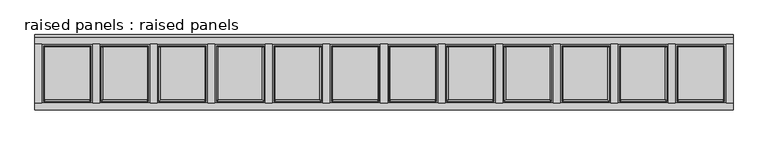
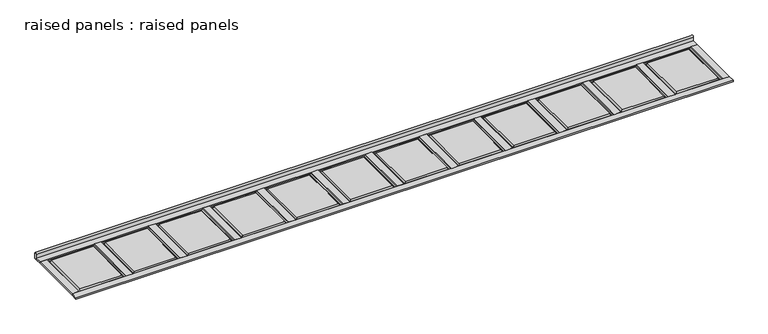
"""IFC4 building model written with IfcOpenShell, lengths in millimetres: furniture geometry, raised panels : raised panels."""

from ifc_helpers import new_model, si_unit, point, frame, frame_2d, origin, origin_with_axes, place, context, project, spatial, polyline, circle_curve, ellipse_curve, trimmed, segment, composite_curve, outline, extrude, source, transform, mapped, element, save
from ifc_brep_helpers import plane_surface, revolved_surface, advanced_brep


def raised_panels_raised_panels_35f73cc0(model_context):
    return source(origin(), model_context, "Body", "SolidModel", [
        advanced_brep(
        [(7410.45, 209.55, 19.05), (7410.45, 781.05, 19.05), (6929.9666667, 781.05, 19.05), (6929.9666667, 209.55, 19.05), (7442.2, 812.8, 0.0), (7442.2, 177.8, 0.0), (6898.2166667, 177.8, 0.0), (6898.2166667, 812.8, 0.0), (6898.2166667, 812.8, 6.35), (7442.2, 812.8, 6.35), (6898.2166667, 177.8, 6.35), (7442.2, 177.8, 6.35), (7423.15, 196.85, 6.35), (7423.15, 793.75, 6.35), (6917.2666667, 793.75, 6.35), (6917.2666667, 196.85, 6.35)],
        [
            (0, 1),
            (1, 2),
            (2, 3),
            (3, 0),
            (4, 5),
            (5, 6),
            (6, 7),
            (7, 4),
            (7, 8),
            (8, 9),
            (9, 4),
            (6, 10),
            (10, 8),
            (5, 11),
            (11, 10),
            (9, 11),
            (12, 13),
            (13, 1, ellipse_curve(frame((7423.15, 793.75, 19.05), z_axis=(-0.7071067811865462, 0.7071067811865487, 0.0), x_axis=(-0.7071067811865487, -0.7071067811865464, 0.0)), 17.9605122, 12.7)),
            (0, 12, ellipse_curve(frame((7423.15, 196.85, 19.05), z_axis=(-0.7071067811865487, -0.7071067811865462, 0.0), x_axis=(0.7071067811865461, -0.7071067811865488, 0.0)), 17.9605122, 12.7)),
            (13, 14),
            (14, 2, ellipse_curve(frame((6917.2666667, 793.75, 19.05), z_axis=(-0.7071067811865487, -0.7071067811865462, 0.0), x_axis=(0.7071067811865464, -0.7071067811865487, 0.0)), 17.9605122, 12.7)),
            (14, 15),
            (15, 3, ellipse_curve(frame((6917.2666667, 196.85, 19.05), z_axis=(0.7071067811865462, -0.7071067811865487, 0.0), x_axis=(0.7071067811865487, 0.7071067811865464, 0.0)), 17.9605122, 12.7)),
            (15, 12),
        ],
        [
            plane_surface(frame((7442.2, 812.8, 19.05), z_axis=(0.0, 0.0, 1.0), x_axis=(-1.0, 0.0, 0.0))),
            plane_surface(frame((7442.2, 812.8, 0.0), z_axis=(0.0, 0.0, -1.0), x_axis=(1.0, 0.0, 0.0))),
            plane_surface(frame((7442.2, 812.8, 19.05), z_axis=(0.0, 1.0, 0.0), x_axis=(0.0, 0.0, -1.0))),
            plane_surface(frame((6898.2166667, 812.8, 19.05), z_axis=(-1.0, 0.0, 0.0), x_axis=(0.0, 0.0, -1.0))),
            plane_surface(frame((6898.2166667, 177.8, 19.05), z_axis=(0.0, -1.0, 0.0), x_axis=(0.0, 0.0, -1.0))),
            plane_surface(frame((7442.2, 177.8, 19.05), z_axis=(1.0, 0.0, 0.0), x_axis=(0.0, 0.0, -1.0))),
            revolved_surface(polyline([(7410.45, 184.15000002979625, 19.05), (7410.45, 806.4499999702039, 19.05)]), (7423.15, 177.8, 19.05), (0.0, -1.0, 0.0)),
            revolved_surface(polyline([(7435.8499999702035, 781.05, 19.05), (6904.566666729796, 781.05, 19.05)]), (7442.2, 793.75, 19.05), (1.0, 0.0, 0.0)),
            revolved_surface(polyline([(6929.9666667, 806.4499999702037, 19.05), (6929.9666667, 184.15000002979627, 19.05)]), (6917.2666667, 812.8, 19.05), (0.0, 1.0, 0.0)),
            revolved_surface(polyline([(6904.566666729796, 209.54999999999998, 19.05), (7435.8499999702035, 209.54999999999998, 19.05)]), (6898.2166667, 196.85, 19.05), (-1.0, 0.0, 0.0)),
            plane_surface(frame((6917.2666667, 196.85, 6.35), z_axis=(0.0, 0.0, 1.0), x_axis=(1.0, 0.0, 0.0))),
        ],
        [
            (0, [[1, 2, 3, 4]]),
            (1, [[5, 6, 7, 8]]),
            (2, [[-8, 9, 10, 11]]),
            (3, [[-7, 12, 13, -9]]),
            (4, [[-6, 14, 15, -12]]),
            (5, [[-5, -11, 16, -14]]),
            (6, [[17, 18, -1, 19]]),
            (7, [[-18, 20, 21, -2]]),
            (8, [[-21, 22, 23, -3]]),
            (9, [[-19, -4, -23, 24]]),
            (10, [[-10, -13, -15, -16], [-17, -24, -22, -20]]),
        ],
    ),
        advanced_brep(
        [(6790.2666667, 209.55, 19.05), (6790.2666667, 781.05, 19.05), (6309.7833333, 781.05, 19.05), (6309.7833333, 209.55, 19.05), (6822.0166667, 812.8, 0.0), (6822.0166667, 177.8, 0.0), (6278.0333333, 177.8, 0.0), (6278.0333333, 812.8, 0.0), (6278.0333333, 812.8, 6.35), (6822.0166667, 812.8, 6.35), (6278.0333333, 177.8, 6.35), (6822.0166667, 177.8, 6.35), (6802.9666667, 196.85, 6.35), (6802.9666667, 793.75, 6.35), (6297.0833333, 793.75, 6.35), (6297.0833333, 196.85, 6.35)],
        [
            (0, 1),
            (1, 2),
            (2, 3),
            (3, 0),
            (4, 5),
            (5, 6),
            (6, 7),
            (7, 4),
            (7, 8),
            (8, 9),
            (9, 4),
            (6, 10),
            (10, 8),
            (5, 11),
            (11, 10),
            (9, 11),
            (12, 13),
            (13, 1, ellipse_curve(frame((6802.9666667, 793.75, 19.05), z_axis=(-0.7071067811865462, 0.7071067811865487, 0.0), x_axis=(-0.7071067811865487, -0.7071067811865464, 0.0)), 17.9605122, 12.7)),
            (0, 12, ellipse_curve(frame((6802.9666667, 196.85, 19.05), z_axis=(-0.7071067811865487, -0.7071067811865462, 0.0), x_axis=(0.7071067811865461, -0.7071067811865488, 0.0)), 17.9605122, 12.7)),
            (13, 14),
            (14, 2, ellipse_curve(frame((6297.0833333, 793.75, 19.05), z_axis=(-0.7071067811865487, -0.7071067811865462, 0.0), x_axis=(0.7071067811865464, -0.7071067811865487, 0.0)), 17.9605122, 12.7)),
            (14, 15),
            (15, 3, ellipse_curve(frame((6297.0833333, 196.85, 19.05), z_axis=(0.7071067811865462, -0.7071067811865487, 0.0), x_axis=(0.7071067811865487, 0.7071067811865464, 0.0)), 17.9605122, 12.7)),
            (15, 12),
        ],
        [
            plane_surface(frame((6822.0166667, 812.8, 19.05), z_axis=(0.0, 0.0, 1.0), x_axis=(-1.0, 0.0, 0.0))),
            plane_surface(frame((6822.0166667, 812.8, 0.0), z_axis=(0.0, 0.0, -1.0), x_axis=(1.0, 0.0, 0.0))),
            plane_surface(frame((6822.0166667, 812.8, 19.05), z_axis=(0.0, 1.0, 0.0), x_axis=(0.0, 0.0, -1.0))),
            plane_surface(frame((6278.0333333, 812.8, 19.05), z_axis=(-1.0, 0.0, 0.0), x_axis=(0.0, 0.0, -1.0))),
            plane_surface(frame((6278.0333333, 177.8, 19.05), z_axis=(0.0, -1.0, 0.0), x_axis=(0.0, 0.0, -1.0))),
            plane_surface(frame((6822.0166667, 177.8, 19.05), z_axis=(1.0, 0.0, 0.0), x_axis=(0.0, 0.0, -1.0))),
            revolved_surface(polyline([(6790.2666667, 184.15000002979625, 19.05), (6790.2666667, 806.4499999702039, 19.05)]), (6802.9666667, 177.8, 19.05), (0.0, -1.0, 0.0)),
            revolved_surface(polyline([(6815.666666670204, 781.05, 19.05), (6284.383333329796, 781.05, 19.05)]), (6822.0166667, 793.75, 19.05), (1.0, 0.0, 0.0)),
            revolved_surface(polyline([(6309.7833333, 806.4499999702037, 19.05), (6309.7833333, 184.15000002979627, 19.05)]), (6297.0833333, 812.8, 19.05), (0.0, 1.0, 0.0)),
            revolved_surface(polyline([(6284.383333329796, 209.54999999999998, 19.05), (6815.666666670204, 209.54999999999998, 19.05)]), (6278.0333333, 196.85, 19.05), (-1.0, 0.0, 0.0)),
            plane_surface(frame((6297.0833333, 196.85, 6.35), z_axis=(0.0, 0.0, 1.0), x_axis=(1.0, 0.0, 0.0))),
        ],
        [
            (0, [[1, 2, 3, 4]]),
            (1, [[5, 6, 7, 8]]),
            (2, [[-8, 9, 10, 11]]),
            (3, [[-7, 12, 13, -9]]),
            (4, [[-6, 14, 15, -12]]),
            (5, [[-5, -11, 16, -14]]),
            (6, [[17, 18, -1, 19]]),
            (7, [[-18, 20, 21, -2]]),
            (8, [[-21, 22, 23, -3]]),
            (9, [[-19, -4, -23, 24]]),
            (10, [[-10, -13, -15, -16], [-17, -24, -22, -20]]),
        ],
    ),
        advanced_brep(
        [(6170.0833333, 209.55, 19.05), (6170.0833333, 781.05, 19.05), (5689.6, 781.05, 19.05), (5689.6, 209.55, 19.05), (6201.8333333, 812.8, 0.0), (6201.8333333, 177.8, 0.0), (5657.85, 177.8, 0.0), (5657.85, 812.8, 0.0), (5657.85, 812.8, 6.35), (6201.8333333, 812.8, 6.35), (5657.85, 177.8, 6.35), (6201.8333333, 177.8, 6.35), (6182.7833333, 196.85, 6.35), (6182.7833333, 793.75, 6.35), (5676.9, 793.75, 6.35), (5676.9, 196.85, 6.35)],
        [
            (0, 1),
            (1, 2),
            (2, 3),
            (3, 0),
            (4, 5),
            (5, 6),
            (6, 7),
            (7, 4),
            (7, 8),
            (8, 9),
            (9, 4),
            (6, 10),
            (10, 8),
            (5, 11),
            (11, 10),
            (9, 11),
            (12, 13),
            (13, 1, ellipse_curve(frame((6182.7833333, 793.75, 19.05), z_axis=(-0.7071067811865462, 0.7071067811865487, 0.0), x_axis=(-0.7071067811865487, -0.7071067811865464, 0.0)), 17.9605122, 12.7)),
            (0, 12, ellipse_curve(frame((6182.7833333, 196.85, 19.05), z_axis=(-0.7071067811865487, -0.7071067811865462, 0.0), x_axis=(0.7071067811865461, -0.7071067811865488, 0.0)), 17.9605122, 12.7)),
            (13, 14),
            (14, 2, ellipse_curve(frame((5676.9, 793.75, 19.05), z_axis=(-0.7071067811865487, -0.7071067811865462, 0.0), x_axis=(0.7071067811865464, -0.7071067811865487, 0.0)), 17.9605122, 12.7)),
            (14, 15),
            (15, 3, ellipse_curve(frame((5676.9, 196.85, 19.05), z_axis=(0.7071067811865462, -0.7071067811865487, 0.0), x_axis=(0.7071067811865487, 0.7071067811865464, 0.0)), 17.9605122, 12.7)),
            (15, 12),
        ],
        [
            plane_surface(frame((6201.8333333, 812.8, 19.05), z_axis=(0.0, 0.0, 1.0), x_axis=(-1.0, 0.0, 0.0))),
            plane_surface(frame((6201.8333333, 812.8, 0.0), z_axis=(0.0, 0.0, -1.0), x_axis=(1.0, 0.0, 0.0))),
            plane_surface(frame((6201.8333333, 812.8, 19.05), z_axis=(0.0, 1.0, 0.0), x_axis=(0.0, 0.0, -1.0))),
            plane_surface(frame((5657.85, 812.8, 19.05), z_axis=(-1.0, 0.0, 0.0), x_axis=(0.0, 0.0, -1.0))),
            plane_surface(frame((5657.85, 177.8, 19.05), z_axis=(0.0, -1.0, 0.0), x_axis=(0.0, 0.0, -1.0))),
            plane_surface(frame((6201.8333333, 177.8, 19.05), z_axis=(1.0, 0.0, 0.0), x_axis=(0.0, 0.0, -1.0))),
            revolved_surface(polyline([(6170.0833333, 184.15000002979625, 19.05), (6170.0833333, 806.4499999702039, 19.05)]), (6182.7833333, 177.8, 19.05), (0.0, -1.0, 0.0)),
            revolved_surface(polyline([(6195.483333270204, 781.05, 19.05), (5664.200000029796, 781.05, 19.05)]), (6201.8333333, 793.75, 19.05), (1.0, 0.0, 0.0)),
            revolved_surface(polyline([(5689.599999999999, 806.4499999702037, 19.05), (5689.599999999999, 184.15000002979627, 19.05)]), (5676.9, 812.8, 19.05), (0.0, 1.0, 0.0)),
            revolved_surface(polyline([(5664.200000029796, 209.54999999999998, 19.05), (6195.483333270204, 209.54999999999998, 19.05)]), (5657.85, 196.85, 19.05), (-1.0, 0.0, 0.0)),
            plane_surface(frame((5676.9, 196.85, 6.35), z_axis=(0.0, 0.0, 1.0), x_axis=(1.0, 0.0, 0.0))),
        ],
        [
            (0, [[1, 2, 3, 4]]),
            (1, [[5, 6, 7, 8]]),
            (2, [[-8, 9, 10, 11]]),
            (3, [[-7, 12, 13, -9]]),
            (4, [[-6, 14, 15, -12]]),
            (5, [[-5, -11, 16, -14]]),
            (6, [[17, 18, -1, 19]]),
            (7, [[-18, 20, 21, -2]]),
            (8, [[-21, 22, 23, -3]]),
            (9, [[-19, -4, -23, 24]]),
            (10, [[-10, -13, -15, -16], [-17, -24, -22, -20]]),
        ],
    ),
        advanced_brep(
        [(5549.9, 209.55, 19.05), (5549.9, 781.05, 19.05), (5069.4166667, 781.05, 19.05), (5069.4166667, 209.55, 19.05), (5581.65, 812.8, 0.0), (5581.65, 177.8, 0.0), (5037.6666667, 177.8, 0.0), (5037.6666667, 812.8, 0.0), (5037.6666667, 812.8, 6.35), (5581.65, 812.8, 6.35), (5037.6666667, 177.8, 6.35), (5581.65, 177.8, 6.35), (5562.6, 196.85, 6.35), (5562.6, 793.75, 6.35), (5056.7166667, 793.75, 6.35), (5056.7166667, 196.85, 6.35)],
        [
            (0, 1),
            (1, 2),
            (2, 3),
            (3, 0),
            (4, 5),
            (5, 6),
            (6, 7),
            (7, 4),
            (7, 8),
            (8, 9),
            (9, 4),
            (6, 10),
            (10, 8),
            (5, 11),
            (11, 10),
            (9, 11),
            (12, 13),
            (13, 1, ellipse_curve(frame((5562.6, 793.75, 19.05), z_axis=(-0.7071067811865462, 0.7071067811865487, 0.0), x_axis=(-0.7071067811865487, -0.7071067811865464, 0.0)), 17.9605122, 12.7)),
            (0, 12, ellipse_curve(frame((5562.6, 196.85, 19.05), z_axis=(-0.7071067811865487, -0.7071067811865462, 0.0), x_axis=(0.7071067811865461, -0.7071067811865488, 0.0)), 17.9605122, 12.7)),
            (13, 14),
            (14, 2, ellipse_curve(frame((5056.7166667, 793.75, 19.05), z_axis=(-0.7071067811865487, -0.7071067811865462, 0.0), x_axis=(0.7071067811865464, -0.7071067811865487, 0.0)), 17.9605122, 12.7)),
            (14, 15),
            (15, 3, ellipse_curve(frame((5056.7166667, 196.85, 19.05), z_axis=(0.7071067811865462, -0.7071067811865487, 0.0), x_axis=(0.7071067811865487, 0.7071067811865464, 0.0)), 17.9605122, 12.7)),
            (15, 12),
        ],
        [
            plane_surface(frame((5581.65, 812.8, 19.05), z_axis=(0.0, 0.0, 1.0), x_axis=(-1.0, 0.0, 0.0))),
            plane_surface(frame((5581.65, 812.8, 0.0), z_axis=(0.0, 0.0, -1.0), x_axis=(1.0, 0.0, 0.0))),
            plane_surface(frame((5581.65, 812.8, 19.05), z_axis=(0.0, 1.0, 0.0), x_axis=(0.0, 0.0, -1.0))),
            plane_surface(frame((5037.6666667, 812.8, 19.05), z_axis=(-1.0, 0.0, 0.0), x_axis=(0.0, 0.0, -1.0))),
            plane_surface(frame((5037.6666667, 177.8, 19.05), z_axis=(0.0, -1.0, 0.0), x_axis=(0.0, 0.0, -1.0))),
            plane_surface(frame((5581.65, 177.8, 19.05), z_axis=(1.0, 0.0, 0.0), x_axis=(0.0, 0.0, -1.0))),
            revolved_surface(polyline([(5549.900000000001, 184.15000002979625, 19.05), (5549.900000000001, 806.4499999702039, 19.05)]), (5562.6, 177.8, 19.05), (0.0, -1.0, 0.0)),
            revolved_surface(polyline([(5575.299999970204, 781.05, 19.05), (5044.016666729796, 781.05, 19.05)]), (5581.65, 793.75, 19.05), (1.0, 0.0, 0.0)),
            revolved_surface(polyline([(5069.4166667, 806.4499999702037, 19.05), (5069.4166667, 184.15000002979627, 19.05)]), (5056.7166667, 812.8, 19.05), (0.0, 1.0, 0.0)),
            revolved_surface(polyline([(5044.016666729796, 209.54999999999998, 19.05), (5575.299999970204, 209.54999999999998, 19.05)]), (5037.6666667, 196.85, 19.05), (-1.0, 0.0, 0.0)),
            plane_surface(frame((5056.7166667, 196.85, 6.35), z_axis=(0.0, 0.0, 1.0), x_axis=(1.0, 0.0, 0.0))),
        ],
        [
            (0, [[1, 2, 3, 4]]),
            (1, [[5, 6, 7, 8]]),
            (2, [[-8, 9, 10, 11]]),
            (3, [[-7, 12, 13, -9]]),
            (4, [[-6, 14, 15, -12]]),
            (5, [[-5, -11, 16, -14]]),
            (6, [[17, 18, -1, 19]]),
            (7, [[-18, 20, 21, -2]]),
            (8, [[-21, 22, 23, -3]]),
            (9, [[-19, -4, -23, 24]]),
            (10, [[-10, -13, -15, -16], [-17, -24, -22, -20]]),
        ],
    ),
        advanced_brep(
        [(4929.7166667, 209.55, 19.05), (4929.7166667, 781.05, 19.05), (4449.2333333, 781.05, 19.05), (4449.2333333, 209.55, 19.05), (4961.4666667, 812.8, 0.0), (4961.4666667, 177.8, 0.0), (4417.4833333, 177.8, 0.0), (4417.4833333, 812.8, 0.0), (4417.4833333, 812.8, 6.35), (4961.4666667, 812.8, 6.35), (4417.4833333, 177.8, 6.35), (4961.4666667, 177.8, 6.35), (4942.4166667, 196.85, 6.35), (4942.4166667, 793.75, 6.35), (4436.5333333, 793.75, 6.35), (4436.5333333, 196.85, 6.35)],
        [
            (0, 1),
            (1, 2),
            (2, 3),
            (3, 0),
            (4, 5),
            (5, 6),
            (6, 7),
            (7, 4),
            (7, 8),
            (8, 9),
            (9, 4),
            (6, 10),
            (10, 8),
            (5, 11),
            (11, 10),
            (9, 11),
            (12, 13),
            (13, 1, ellipse_curve(frame((4942.4166667, 793.75, 19.05), z_axis=(-0.7071067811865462, 0.7071067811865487, 0.0), x_axis=(-0.7071067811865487, -0.7071067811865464, 0.0)), 17.9605122, 12.7)),
            (0, 12, ellipse_curve(frame((4942.4166667, 196.85, 19.05), z_axis=(-0.7071067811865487, -0.7071067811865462, 0.0), x_axis=(0.7071067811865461, -0.7071067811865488, 0.0)), 17.9605122, 12.7)),
            (13, 14),
            (14, 2, ellipse_curve(frame((4436.5333333, 793.75, 19.05), z_axis=(-0.7071067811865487, -0.7071067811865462, 0.0), x_axis=(0.7071067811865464, -0.7071067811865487, 0.0)), 17.9605122, 12.7)),
            (14, 15),
            (15, 3, ellipse_curve(frame((4436.5333333, 196.85, 19.05), z_axis=(0.7071067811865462, -0.7071067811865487, 0.0), x_axis=(0.7071067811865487, 0.7071067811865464, 0.0)), 17.9605122, 12.7)),
            (15, 12),
        ],
        [
            plane_surface(frame((4961.4666667, 812.8, 19.05), z_axis=(0.0, 0.0, 1.0), x_axis=(-1.0, 0.0, 0.0))),
            plane_surface(frame((4961.4666667, 812.8, 0.0), z_axis=(0.0, 0.0, -1.0), x_axis=(1.0, 0.0, 0.0))),
            plane_surface(frame((4961.4666667, 812.8, 19.05), z_axis=(0.0, 1.0, 0.0), x_axis=(0.0, 0.0, -1.0))),
            plane_surface(frame((4417.4833333, 812.8, 19.05), z_axis=(-1.0, 0.0, 0.0), x_axis=(0.0, 0.0, -1.0))),
            plane_surface(frame((4417.4833333, 177.8, 19.05), z_axis=(0.0, -1.0, 0.0), x_axis=(0.0, 0.0, -1.0))),
            plane_surface(frame((4961.4666667, 177.8, 19.05), z_axis=(1.0, 0.0, 0.0), x_axis=(0.0, 0.0, -1.0))),
            revolved_surface(polyline([(4929.7166667, 184.15000002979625, 19.05), (4929.7166667, 806.4499999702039, 19.05)]), (4942.4166667, 177.8, 19.05), (0.0, -1.0, 0.0)),
            revolved_surface(polyline([(4955.116666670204, 781.05, 19.05), (4423.833333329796, 781.05, 19.05)]), (4961.4666667, 793.75, 19.05), (1.0, 0.0, 0.0)),
            revolved_surface(polyline([(4449.2333333, 806.4499999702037, 19.05), (4449.2333333, 184.15000002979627, 19.05)]), (4436.5333333, 812.8, 19.05), (0.0, 1.0, 0.0)),
            revolved_surface(polyline([(4423.833333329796, 209.54999999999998, 19.05), (4955.116666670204, 209.54999999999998, 19.05)]), (4417.4833333, 196.85, 19.05), (-1.0, 0.0, 0.0)),
            plane_surface(frame((4436.5333333, 196.85, 6.35), z_axis=(0.0, 0.0, 1.0), x_axis=(1.0, 0.0, 0.0))),
        ],
        [
            (0, [[1, 2, 3, 4]]),
            (1, [[5, 6, 7, 8]]),
            (2, [[-8, 9, 10, 11]]),
            (3, [[-7, 12, 13, -9]]),
            (4, [[-6, 14, 15, -12]]),
            (5, [[-5, -11, 16, -14]]),
            (6, [[17, 18, -1, 19]]),
            (7, [[-18, 20, 21, -2]]),
            (8, [[-21, 22, 23, -3]]),
            (9, [[-19, -4, -23, 24]]),
            (10, [[-10, -13, -15, -16], [-17, -24, -22, -20]]),
        ],
    ),
        extrude(outline(polyline([(6898.2166667, 177.8), (6822.0166667, 177.8), (6822.0166667, 812.8), (6898.2166667, 812.8), (6898.2166667, 177.8)])), origin_with_axes(), (0.0, 0.0, 1.0), 19.05),
        extrude(outline(polyline([(6278.0333333, 177.8), (6201.8333333, 177.8), (6201.8333333, 812.8), (6278.0333333, 812.8), (6278.0333333, 177.8)])), origin_with_axes(), (0.0, 0.0, 1.0), 19.05),
        extrude(outline(polyline([(5657.85, 177.8), (5581.65, 177.8), (5581.65, 812.8), (5657.85, 812.8), (5657.85, 177.8)])), origin_with_axes(), (0.0, 0.0, 1.0), 19.05),
        extrude(outline(polyline([(5037.6666667, 177.8), (4961.4666667, 177.8), (4961.4666667, 812.8), (5037.6666667, 812.8), (5037.6666667, 177.8)])), origin_with_axes(), (0.0, 0.0, 1.0), 19.05),
        extrude(outline(polyline([(4417.4833333, 177.8), (4341.2833333, 177.8), (4341.2833333, 812.8), (4417.4833333, 812.8), (4417.4833333, 177.8)])), origin_with_axes(), (0.0, 0.0, 1.0), 19.05),
        advanced_brep(
        [(4309.5333333, 209.55, 19.05), (4309.5333333, 781.05, 19.05), (3829.05, 781.05, 19.05), (3829.05, 209.55, 19.05), (4341.2833333, 812.8, 0.0), (4341.2833333, 177.8, 0.0), (3797.3, 177.8, 0.0), (3797.3, 812.8, 0.0), (3797.3, 812.8, 6.35), (4341.2833333, 812.8, 6.35), (3797.3, 177.8, 6.35), (4341.2833333, 177.8, 6.35), (4322.2333333, 196.85, 6.35), (4322.2333333, 793.75, 6.35), (3816.35, 793.75, 6.35), (3816.35, 196.85, 6.35)],
        [
            (0, 1),
            (1, 2),
            (2, 3),
            (3, 0),
            (4, 5),
            (5, 6),
            (6, 7),
            (7, 4),
            (7, 8),
            (8, 9),
            (9, 4),
            (6, 10),
            (10, 8),
            (5, 11),
            (11, 10),
            (9, 11),
            (12, 13),
            (13, 1, ellipse_curve(frame((4322.2333333, 793.75, 19.05), z_axis=(-0.7071067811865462, 0.7071067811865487, 0.0), x_axis=(-0.7071067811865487, -0.7071067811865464, 0.0)), 17.9605122, 12.7)),
            (0, 12, ellipse_curve(frame((4322.2333333, 196.85, 19.05), z_axis=(-0.7071067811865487, -0.7071067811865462, 0.0), x_axis=(0.7071067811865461, -0.7071067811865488, 0.0)), 17.9605122, 12.7)),
            (13, 14),
            (14, 2, ellipse_curve(frame((3816.35, 793.75, 19.05), z_axis=(-0.7071067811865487, -0.7071067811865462, 0.0), x_axis=(0.7071067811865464, -0.7071067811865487, 0.0)), 17.9605122, 12.7)),
            (14, 15),
            (15, 3, ellipse_curve(frame((3816.35, 196.85, 19.05), z_axis=(0.7071067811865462, -0.7071067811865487, 0.0), x_axis=(0.7071067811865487, 0.7071067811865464, 0.0)), 17.9605122, 12.7)),
            (15, 12),
        ],
        [
            plane_surface(frame((4341.2833333, 812.8, 19.05), z_axis=(0.0, 0.0, 1.0), x_axis=(-1.0, 0.0, 0.0))),
            plane_surface(frame((4341.2833333, 812.8, 0.0), z_axis=(0.0, 0.0, -1.0), x_axis=(1.0, 0.0, 0.0))),
            plane_surface(frame((4341.2833333, 812.8, 19.05), z_axis=(0.0, 1.0, 0.0), x_axis=(0.0, 0.0, -1.0))),
            plane_surface(frame((3797.3, 812.8, 19.05), z_axis=(-1.0, 0.0, 0.0), x_axis=(0.0, 0.0, -1.0))),
            plane_surface(frame((3797.3, 177.8, 19.05), z_axis=(0.0, -1.0, 0.0), x_axis=(0.0, 0.0, -1.0))),
            plane_surface(frame((4341.2833333, 177.8, 19.05), z_axis=(1.0, 0.0, 0.0), x_axis=(0.0, 0.0, -1.0))),
            revolved_surface(polyline([(4309.5333333, 184.15000002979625, 19.05), (4309.5333333, 806.4499999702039, 19.05)]), (4322.2333333, 177.8, 19.05), (0.0, -1.0, 0.0)),
            revolved_surface(polyline([(4334.933333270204, 781.05, 19.05), (3803.650000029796, 781.05, 19.05)]), (4341.2833333, 793.75, 19.05), (1.0, 0.0, 0.0)),
            revolved_surface(polyline([(3829.0499999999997, 806.4499999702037, 19.05), (3829.0499999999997, 184.15000002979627, 19.05)]), (3816.35, 812.8, 19.05), (0.0, 1.0, 0.0)),
            revolved_surface(polyline([(3803.650000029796, 209.54999999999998, 19.05), (4334.933333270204, 209.54999999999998, 19.05)]), (3797.3, 196.85, 19.05), (-1.0, 0.0, 0.0)),
            plane_surface(frame((3816.35, 196.85, 6.35), z_axis=(0.0, 0.0, 1.0), x_axis=(1.0, 0.0, 0.0))),
        ],
        [
            (0, [[1, 2, 3, 4]]),
            (1, [[5, 6, 7, 8]]),
            (2, [[-8, 9, 10, 11]]),
            (3, [[-7, 12, 13, -9]]),
            (4, [[-6, 14, 15, -12]]),
            (5, [[-5, -11, 16, -14]]),
            (6, [[17, 18, -1, 19]]),
            (7, [[-18, 20, 21, -2]]),
            (8, [[-21, 22, 23, -3]]),
            (9, [[-19, -4, -23, 24]]),
            (10, [[-10, -13, -15, -16], [-17, -24, -22, -20]]),
        ],
    ),
        advanced_brep(
        [(3689.35, 209.55, 19.05), (3689.35, 781.05, 19.05), (3208.8666667, 781.05, 19.05), (3208.8666667, 209.55, 19.05), (3721.1, 812.8, 0.0), (3721.1, 177.8, 0.0), (3177.1166667, 177.8, 0.0), (3177.1166667, 812.8, 0.0), (3177.1166667, 812.8, 6.35), (3721.1, 812.8, 6.35), (3177.1166667, 177.8, 6.35), (3721.1, 177.8, 6.35), (3702.05, 196.85, 6.35), (3702.05, 793.75, 6.35), (3196.1666667, 793.75, 6.35), (3196.1666667, 196.85, 6.35)],
        [
            (0, 1),
            (1, 2),
            (2, 3),
            (3, 0),
            (4, 5),
            (5, 6),
            (6, 7),
            (7, 4),
            (7, 8),
            (8, 9),
            (9, 4),
            (6, 10),
            (10, 8),
            (5, 11),
            (11, 10),
            (9, 11),
            (12, 13),
            (13, 1, ellipse_curve(frame((3702.05, 793.75, 19.05), z_axis=(-0.7071067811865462, 0.7071067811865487, 0.0), x_axis=(-0.7071067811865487, -0.7071067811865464, 0.0)), 17.9605122, 12.7)),
            (0, 12, ellipse_curve(frame((3702.05, 196.85, 19.05), z_axis=(-0.7071067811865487, -0.7071067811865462, 0.0), x_axis=(0.7071067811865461, -0.7071067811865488, 0.0)), 17.9605122, 12.7)),
            (13, 14),
            (14, 2, ellipse_curve(frame((3196.1666667, 793.75, 19.05), z_axis=(-0.7071067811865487, -0.7071067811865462, 0.0), x_axis=(0.7071067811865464, -0.7071067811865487, 0.0)), 17.9605122, 12.7)),
            (14, 15),
            (15, 3, ellipse_curve(frame((3196.1666667, 196.85, 19.05), z_axis=(0.7071067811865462, -0.7071067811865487, 0.0), x_axis=(0.7071067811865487, 0.7071067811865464, 0.0)), 17.9605122, 12.7)),
            (15, 12),
        ],
        [
            plane_surface(frame((3721.1, 812.8, 19.05), z_axis=(0.0, 0.0, 1.0), x_axis=(-1.0, 0.0, 0.0))),
            plane_surface(frame((3721.1, 812.8, 0.0), z_axis=(0.0, 0.0, -1.0), x_axis=(1.0, 0.0, 0.0))),
            plane_surface(frame((3721.1, 812.8, 19.05), z_axis=(0.0, 1.0, 0.0), x_axis=(0.0, 0.0, -1.0))),
            plane_surface(frame((3177.1166667, 812.8, 19.05), z_axis=(-1.0, 0.0, 0.0), x_axis=(0.0, 0.0, -1.0))),
            plane_surface(frame((3177.1166667, 177.8, 19.05), z_axis=(0.0, -1.0, 0.0), x_axis=(0.0, 0.0, -1.0))),
            plane_surface(frame((3721.1, 177.8, 19.05), z_axis=(1.0, 0.0, 0.0), x_axis=(0.0, 0.0, -1.0))),
            revolved_surface(polyline([(3689.3500000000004, 184.15000002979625, 19.05), (3689.3500000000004, 806.4499999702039, 19.05)]), (3702.05, 177.8, 19.05), (0.0, -1.0, 0.0)),
            revolved_surface(polyline([(3714.749999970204, 781.05, 19.05), (3183.466666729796, 781.05, 19.05)]), (3721.1, 793.75, 19.05), (1.0, 0.0, 0.0)),
            revolved_surface(polyline([(3208.8666666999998, 806.4499999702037, 19.05), (3208.8666666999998, 184.15000002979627, 19.05)]), (3196.1666667, 812.8, 19.05), (0.0, 1.0, 0.0)),
            revolved_surface(polyline([(3183.466666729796, 209.54999999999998, 19.05), (3714.749999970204, 209.54999999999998, 19.05)]), (3177.1166667, 196.85, 19.05), (-1.0, 0.0, 0.0)),
            plane_surface(frame((3196.1666667, 196.85, 6.35), z_axis=(0.0, 0.0, 1.0), x_axis=(1.0, 0.0, 0.0))),
        ],
        [
            (0, [[1, 2, 3, 4]]),
            (1, [[5, 6, 7, 8]]),
            (2, [[-8, 9, 10, 11]]),
            (3, [[-7, 12, 13, -9]]),
            (4, [[-6, 14, 15, -12]]),
            (5, [[-5, -11, 16, -14]]),
            (6, [[17, 18, -1, 19]]),
            (7, [[-18, 20, 21, -2]]),
            (8, [[-21, 22, 23, -3]]),
            (9, [[-19, -4, -23, 24]]),
            (10, [[-10, -13, -15, -16], [-17, -24, -22, -20]]),
        ],
    ),
        advanced_brep(
        [(3069.1666667, 209.55, 19.05), (3069.1666667, 781.05, 19.05), (2588.6833333, 781.05, 19.05), (2588.6833333, 209.55, 19.05), (3100.9166667, 812.8, 0.0), (3100.9166667, 177.8, 0.0), (2556.9333333, 177.8, 0.0), (2556.9333333, 812.8, 0.0), (2556.9333333, 812.8, 6.35), (3100.9166667, 812.8, 6.35), (2556.9333333, 177.8, 6.35), (3100.9166667, 177.8, 6.35), (3081.8666667, 196.85, 6.35), (3081.8666667, 793.75, 6.35), (2575.9833333, 793.75, 6.35), (2575.9833333, 196.85, 6.35)],
        [
            (0, 1),
            (1, 2),
            (2, 3),
            (3, 0),
            (4, 5),
            (5, 6),
            (6, 7),
            (7, 4),
            (7, 8),
            (8, 9),
            (9, 4),
            (6, 10),
            (10, 8),
            (5, 11),
            (11, 10),
            (9, 11),
            (12, 13),
            (13, 1, ellipse_curve(frame((3081.8666667, 793.75, 19.05), z_axis=(-0.7071067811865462, 0.7071067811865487, 0.0), x_axis=(-0.7071067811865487, -0.7071067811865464, 0.0)), 17.9605122, 12.7)),
            (0, 12, ellipse_curve(frame((3081.8666667, 196.85, 19.05), z_axis=(-0.7071067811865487, -0.7071067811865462, 0.0), x_axis=(0.7071067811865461, -0.7071067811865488, 0.0)), 17.9605122, 12.7)),
            (13, 14),
            (14, 2, ellipse_curve(frame((2575.9833333, 793.75, 19.05), z_axis=(-0.7071067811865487, -0.7071067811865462, 0.0), x_axis=(0.7071067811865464, -0.7071067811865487, 0.0)), 17.9605122, 12.7)),
            (14, 15),
            (15, 3, ellipse_curve(frame((2575.9833333, 196.85, 19.05), z_axis=(0.7071067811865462, -0.7071067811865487, 0.0), x_axis=(0.7071067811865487, 0.7071067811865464, 0.0)), 17.9605122, 12.7)),
            (15, 12),
        ],
        [
            plane_surface(frame((3100.9166667, 812.8, 19.05), z_axis=(0.0, 0.0, 1.0), x_axis=(-1.0, 0.0, 0.0))),
            plane_surface(frame((3100.9166667, 812.8, 0.0), z_axis=(0.0, 0.0, -1.0), x_axis=(1.0, 0.0, 0.0))),
            plane_surface(frame((3100.9166667, 812.8, 19.05), z_axis=(0.0, 1.0, 0.0), x_axis=(0.0, 0.0, -1.0))),
            plane_surface(frame((2556.9333333, 812.8, 19.05), z_axis=(-1.0, 0.0, 0.0), x_axis=(0.0, 0.0, -1.0))),
            plane_surface(frame((2556.9333333, 177.8, 19.05), z_axis=(0.0, -1.0, 0.0), x_axis=(0.0, 0.0, -1.0))),
            plane_surface(frame((3100.9166667, 177.8, 19.05), z_axis=(1.0, 0.0, 0.0), x_axis=(0.0, 0.0, -1.0))),
            revolved_surface(polyline([(3069.1666667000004, 184.15000002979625, 19.05), (3069.1666667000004, 806.4499999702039, 19.05)]), (3081.8666667, 177.8, 19.05), (0.0, -1.0, 0.0)),
            revolved_surface(polyline([(3094.566666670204, 781.05, 19.05), (2563.2833333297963, 781.05, 19.05)]), (3100.9166667, 793.75, 19.05), (1.0, 0.0, 0.0)),
            revolved_surface(polyline([(2588.6833333, 806.4499999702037, 19.05), (2588.6833333, 184.15000002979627, 19.05)]), (2575.9833333, 812.8, 19.05), (0.0, 1.0, 0.0)),
            revolved_surface(polyline([(2563.2833333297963, 209.54999999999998, 19.05), (3094.5666666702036, 209.54999999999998, 19.05)]), (2556.9333333, 196.85, 19.05), (-1.0, 0.0, 0.0)),
            plane_surface(frame((2575.9833333, 196.85, 6.35), z_axis=(0.0, 0.0, 1.0), x_axis=(1.0, 0.0, 0.0))),
        ],
        [
            (0, [[1, 2, 3, 4]]),
            (1, [[5, 6, 7, 8]]),
            (2, [[-8, 9, 10, 11]]),
            (3, [[-7, 12, 13, -9]]),
            (4, [[-6, 14, 15, -12]]),
            (5, [[-5, -11, 16, -14]]),
            (6, [[17, 18, -1, 19]]),
            (7, [[-18, 20, 21, -2]]),
            (8, [[-21, 22, 23, -3]]),
            (9, [[-19, -4, -23, 24]]),
            (10, [[-10, -13, -15, -16], [-17, -24, -22, -20]]),
        ],
    ),
        advanced_brep(
        [(2448.9833333, 209.55, 19.05), (2448.9833333, 781.05, 19.05), (1968.5, 781.05, 19.05), (1968.5, 209.55, 19.05), (2480.7333333, 812.8, 0.0), (2480.7333333, 177.8, 0.0), (1936.75, 177.8, 0.0), (1936.75, 812.8, 0.0), (1936.75, 812.8, 6.35), (2480.7333333, 812.8, 6.35), (1936.75, 177.8, 6.35), (2480.7333333, 177.8, 6.35), (2461.6833333, 196.85, 6.35), (2461.6833333, 793.75, 6.35), (1955.8, 793.75, 6.35), (1955.8, 196.85, 6.35)],
        [
            (0, 1),
            (1, 2),
            (2, 3),
            (3, 0),
            (4, 5),
            (5, 6),
            (6, 7),
            (7, 4),
            (7, 8),
            (8, 9),
            (9, 4),
            (6, 10),
            (10, 8),
            (5, 11),
            (11, 10),
            (9, 11),
            (12, 13),
            (13, 1, ellipse_curve(frame((2461.6833333, 793.75, 19.05), z_axis=(-0.7071067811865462, 0.7071067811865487, 0.0), x_axis=(-0.7071067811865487, -0.7071067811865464, 0.0)), 17.9605122, 12.7)),
            (0, 12, ellipse_curve(frame((2461.6833333, 196.85, 19.05), z_axis=(-0.7071067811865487, -0.7071067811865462, 0.0), x_axis=(0.7071067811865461, -0.7071067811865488, 0.0)), 17.9605122, 12.7)),
            (13, 14),
            (14, 2, ellipse_curve(frame((1955.8, 793.75, 19.05), z_axis=(-0.7071067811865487, -0.7071067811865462, 0.0), x_axis=(0.7071067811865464, -0.7071067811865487, 0.0)), 17.9605122, 12.7)),
            (14, 15),
            (15, 3, ellipse_curve(frame((1955.8, 196.85, 19.05), z_axis=(0.7071067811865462, -0.7071067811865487, 0.0), x_axis=(0.7071067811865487, 0.7071067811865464, 0.0)), 17.9605122, 12.7)),
            (15, 12),
        ],
        [
            plane_surface(frame((2480.7333333, 812.8, 19.05), z_axis=(0.0, 0.0, 1.0), x_axis=(-1.0, 0.0, 0.0))),
            plane_surface(frame((2480.7333333, 812.8, 0.0), z_axis=(0.0, 0.0, -1.0), x_axis=(1.0, 0.0, 0.0))),
            plane_surface(frame((2480.7333333, 812.8, 19.05), z_axis=(0.0, 1.0, 0.0), x_axis=(0.0, 0.0, -1.0))),
            plane_surface(frame((1936.75, 812.8, 19.05), z_axis=(-1.0, 0.0, 0.0), x_axis=(0.0, 0.0, -1.0))),
            plane_surface(frame((1936.75, 177.8, 19.05), z_axis=(0.0, -1.0, 0.0), x_axis=(0.0, 0.0, -1.0))),
            plane_surface(frame((2480.7333333, 177.8, 19.05), z_axis=(1.0, 0.0, 0.0), x_axis=(0.0, 0.0, -1.0))),
            revolved_surface(polyline([(2448.9833333, 184.15000002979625, 19.05), (2448.9833333, 806.4499999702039, 19.05)]), (2461.6833333, 177.8, 19.05), (0.0, -1.0, 0.0)),
            revolved_surface(polyline([(2474.383333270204, 781.05, 19.05), (1943.1000000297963, 781.05, 19.05)]), (2480.7333333, 793.75, 19.05), (1.0, 0.0, 0.0)),
            revolved_surface(polyline([(1968.5, 806.4499999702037, 19.05), (1968.5, 184.15000002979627, 19.05)]), (1955.8, 812.8, 19.05), (0.0, 1.0, 0.0)),
            revolved_surface(polyline([(1943.1000000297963, 209.54999999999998, 19.05), (2474.3833332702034, 209.54999999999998, 19.05)]), (1936.75, 196.85, 19.05), (-1.0, 0.0, 0.0)),
            plane_surface(frame((1955.8, 196.85, 6.35), z_axis=(0.0, 0.0, 1.0), x_axis=(1.0, 0.0, 0.0))),
        ],
        [
            (0, [[1, 2, 3, 4]]),
            (1, [[5, 6, 7, 8]]),
            (2, [[-8, 9, 10, 11]]),
            (3, [[-7, 12, 13, -9]]),
            (4, [[-6, 14, 15, -12]]),
            (5, [[-5, -11, 16, -14]]),
            (6, [[17, 18, -1, 19]]),
            (7, [[-18, 20, 21, -2]]),
            (8, [[-21, 22, 23, -3]]),
            (9, [[-19, -4, -23, 24]]),
            (10, [[-10, -13, -15, -16], [-17, -24, -22, -20]]),
        ],
    ),
        advanced_brep(
        [(1828.8, 209.55, 19.05), (1828.8, 781.05, 19.05), (1348.3166667, 781.05, 19.05), (1348.3166667, 209.55, 19.05), (1860.55, 812.8, 0.0), (1860.55, 177.8, 0.0), (1316.5666667, 177.8, 0.0), (1316.5666667, 812.8, 0.0), (1316.5666667, 812.8, 6.35), (1860.55, 812.8, 6.35), (1316.5666667, 177.8, 6.35), (1860.55, 177.8, 6.35), (1841.5, 196.85, 6.35), (1841.5, 793.75, 6.35), (1335.6166667, 793.75, 6.35), (1335.6166667, 196.85, 6.35)],
        [
            (0, 1),
            (1, 2),
            (2, 3),
            (3, 0),
            (4, 5),
            (5, 6),
            (6, 7),
            (7, 4),
            (7, 8),
            (8, 9),
            (9, 4),
            (6, 10),
            (10, 8),
            (5, 11),
            (11, 10),
            (9, 11),
            (12, 13),
            (13, 1, ellipse_curve(frame((1841.5, 793.75, 19.05), z_axis=(-0.7071067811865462, 0.7071067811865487, 0.0), x_axis=(-0.7071067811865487, -0.7071067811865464, 0.0)), 17.9605122, 12.7)),
            (0, 12, ellipse_curve(frame((1841.5, 196.85, 19.05), z_axis=(-0.7071067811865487, -0.7071067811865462, 0.0), x_axis=(0.7071067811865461, -0.7071067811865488, 0.0)), 17.9605122, 12.7)),
            (13, 14),
            (14, 2, ellipse_curve(frame((1335.6166667, 793.75, 19.05), z_axis=(-0.7071067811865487, -0.7071067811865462, 0.0), x_axis=(0.7071067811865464, -0.7071067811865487, 0.0)), 17.9605122, 12.7)),
            (14, 15),
            (15, 3, ellipse_curve(frame((1335.6166667, 196.85, 19.05), z_axis=(0.7071067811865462, -0.7071067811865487, 0.0), x_axis=(0.7071067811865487, 0.7071067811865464, 0.0)), 17.9605122, 12.7)),
            (15, 12),
        ],
        [
            plane_surface(frame((1860.55, 812.8, 19.05), z_axis=(0.0, 0.0, 1.0), x_axis=(-1.0, 0.0, 0.0))),
            plane_surface(frame((1860.55, 812.8, 0.0), z_axis=(0.0, 0.0, -1.0), x_axis=(1.0, 0.0, 0.0))),
            plane_surface(frame((1860.55, 812.8, 19.05), z_axis=(0.0, 1.0, 0.0), x_axis=(0.0, 0.0, -1.0))),
            plane_surface(frame((1316.5666667, 812.8, 19.05), z_axis=(-1.0, 0.0, 0.0), x_axis=(0.0, 0.0, -1.0))),
            plane_surface(frame((1316.5666667, 177.8, 19.05), z_axis=(0.0, -1.0, 0.0), x_axis=(0.0, 0.0, -1.0))),
            plane_surface(frame((1860.55, 177.8, 19.05), z_axis=(1.0, 0.0, 0.0), x_axis=(0.0, 0.0, -1.0))),
            revolved_surface(polyline([(1828.8, 184.15000002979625, 19.05), (1828.8, 806.4499999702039, 19.05)]), (1841.5, 177.8, 19.05), (0.0, -1.0, 0.0)),
            revolved_surface(polyline([(1854.1999999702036, 781.05, 19.05), (1322.9166667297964, 781.05, 19.05)]), (1860.55, 793.75, 19.05), (1.0, 0.0, 0.0)),
            revolved_surface(polyline([(1348.3166667, 806.4499999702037, 19.05), (1348.3166667, 184.15000002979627, 19.05)]), (1335.6166667, 812.8, 19.05), (0.0, 1.0, 0.0)),
            revolved_surface(polyline([(1322.9166667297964, 209.54999999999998, 19.05), (1854.1999999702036, 209.54999999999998, 19.05)]), (1316.5666667, 196.85, 19.05), (-1.0, 0.0, 0.0)),
            plane_surface(frame((1335.6166667, 196.85, 6.35), z_axis=(0.0, 0.0, 1.0), x_axis=(1.0, 0.0, 0.0))),
        ],
        [
            (0, [[1, 2, 3, 4]]),
            (1, [[5, 6, 7, 8]]),
            (2, [[-8, 9, 10, 11]]),
            (3, [[-7, 12, 13, -9]]),
            (4, [[-6, 14, 15, -12]]),
            (5, [[-5, -11, 16, -14]]),
            (6, [[17, 18, -1, 19]]),
            (7, [[-18, 20, 21, -2]]),
            (8, [[-21, 22, 23, -3]]),
            (9, [[-19, -4, -23, 24]]),
            (10, [[-10, -13, -15, -16], [-17, -24, -22, -20]]),
        ],
    ),
        advanced_brep(
        [(1208.6166667, 209.55, 19.05), (1208.6166667, 781.05, 19.05), (728.1333333, 781.05, 19.05), (728.1333333, 209.55, 19.05), (1240.3666667, 812.8, 0.0), (1240.3666667, 177.8, 0.0), (696.3833333, 177.8, 0.0), (696.3833333, 812.8, 0.0), (696.3833333, 812.8, 6.35), (1240.3666667, 812.8, 6.35), (696.3833333, 177.8, 6.35), (1240.3666667, 177.8, 6.35), (1221.3166667, 196.85, 6.35), (1221.3166667, 793.75, 6.35), (715.4333333, 793.75, 6.35), (715.4333333, 196.85, 6.35)],
        [
            (0, 1),
            (1, 2),
            (2, 3),
            (3, 0),
            (4, 5),
            (5, 6),
            (6, 7),
            (7, 4),
            (7, 8),
            (8, 9),
            (9, 4),
            (6, 10),
            (10, 8),
            (5, 11),
            (11, 10),
            (9, 11),
            (12, 13),
            (13, 1, ellipse_curve(frame((1221.3166667, 793.75, 19.05), z_axis=(-0.7071067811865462, 0.7071067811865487, 0.0), x_axis=(-0.7071067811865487, -0.7071067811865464, 0.0)), 17.9605122, 12.7)),
            (0, 12, ellipse_curve(frame((1221.3166667, 196.85, 19.05), z_axis=(-0.7071067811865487, -0.7071067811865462, 0.0), x_axis=(0.7071067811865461, -0.7071067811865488, 0.0)), 17.9605122, 12.7)),
            (13, 14),
            (14, 2, ellipse_curve(frame((715.4333333, 793.75, 19.05), z_axis=(-0.7071067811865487, -0.7071067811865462, 0.0), x_axis=(0.7071067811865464, -0.7071067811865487, 0.0)), 17.9605122, 12.7)),
            (14, 15),
            (15, 3, ellipse_curve(frame((715.4333333, 196.85, 19.05), z_axis=(0.7071067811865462, -0.7071067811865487, 0.0), x_axis=(0.7071067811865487, 0.7071067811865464, 0.0)), 17.9605122, 12.7)),
            (15, 12),
        ],
        [
            plane_surface(frame((1240.3666667, 812.8, 19.05), z_axis=(0.0, 0.0, 1.0), x_axis=(-1.0, 0.0, 0.0))),
            plane_surface(frame((1240.3666667, 812.8, 0.0), z_axis=(0.0, 0.0, -1.0), x_axis=(1.0, 0.0, 0.0))),
            plane_surface(frame((1240.3666667, 812.8, 19.05), z_axis=(0.0, 1.0, 0.0), x_axis=(0.0, 0.0, -1.0))),
            plane_surface(frame((696.3833333, 812.8, 19.05), z_axis=(-1.0, 0.0, 0.0), x_axis=(0.0, 0.0, -1.0))),
            plane_surface(frame((696.3833333, 177.8, 19.05), z_axis=(0.0, -1.0, 0.0), x_axis=(0.0, 0.0, -1.0))),
            plane_surface(frame((1240.3666667, 177.8, 19.05), z_axis=(1.0, 0.0, 0.0), x_axis=(0.0, 0.0, -1.0))),
            revolved_surface(polyline([(1208.6166667, 184.15000002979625, 19.05), (1208.6166667, 806.4499999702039, 19.05)]), (1221.3166667, 177.8, 19.05), (0.0, -1.0, 0.0)),
            revolved_surface(polyline([(1234.0166666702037, 781.05, 19.05), (702.7333333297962, 781.05, 19.05)]), (1240.3666667, 793.75, 19.05), (1.0, 0.0, 0.0)),
            revolved_surface(polyline([(728.1333333, 806.4499999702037, 19.05), (728.1333333, 184.15000002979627, 19.05)]), (715.4333333, 812.8, 19.05), (0.0, 1.0, 0.0)),
            revolved_surface(polyline([(702.7333333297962, 209.54999999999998, 19.05), (1234.0166666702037, 209.54999999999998, 19.05)]), (696.3833333, 196.85, 19.05), (-1.0, 0.0, 0.0)),
            plane_surface(frame((715.4333333, 196.85, 6.35), z_axis=(0.0, 0.0, 1.0), x_axis=(1.0, 0.0, 0.0))),
        ],
        [
            (0, [[1, 2, 3, 4]]),
            (1, [[5, 6, 7, 8]]),
            (2, [[-8, 9, 10, 11]]),
            (3, [[-7, 12, 13, -9]]),
            (4, [[-6, 14, 15, -12]]),
            (5, [[-5, -11, 16, -14]]),
            (6, [[17, 18, -1, 19]]),
            (7, [[-18, 20, 21, -2]]),
            (8, [[-21, 22, 23, -3]]),
            (9, [[-19, -4, -23, 24]]),
            (10, [[-10, -13, -15, -16], [-17, -24, -22, -20]]),
        ],
    ),
        extrude(outline(polyline([(3797.3, 177.8), (3721.1, 177.8), (3721.1, 812.8), (3797.3, 812.8), (3797.3, 177.8)])), origin_with_axes(), (0.0, 0.0, 1.0), 19.05),
        extrude(outline(polyline([(3177.1166667, 177.8), (3100.9166667, 177.8), (3100.9166667, 812.8), (3177.1166667, 812.8), (3177.1166667, 177.8)])), origin_with_axes(), (0.0, 0.0, 1.0), 19.05),
        extrude(outline(polyline([(2556.9333333, 177.8), (2480.7333333, 177.8), (2480.7333333, 812.8), (2556.9333333, 812.8), (2556.9333333, 177.8)])), origin_with_axes(), (0.0, 0.0, 1.0), 19.05),
        advanced_brep(
        [(588.4333333, 209.55, 19.05), (588.4333333, 781.05, 19.05), (107.95, 781.05, 19.05), (107.95, 209.55, 19.05), (620.1833333, 812.8, 0.0), (620.1833333, 177.8, 0.0), (76.2, 177.8, 0.0), (76.2, 812.8, 0.0), (76.2, 812.8, 6.35), (620.1833333, 812.8, 6.35), (76.2, 177.8, 6.35), (620.1833333, 177.8, 6.35), (601.1333333, 196.85, 6.35), (601.1333333, 793.75, 6.35), (95.25, 793.75, 6.35), (95.25, 196.85, 6.35)],
        [
            (0, 1),
            (1, 2),
            (2, 3),
            (3, 0),
            (4, 5),
            (5, 6),
            (6, 7),
            (7, 4),
            (7, 8),
            (8, 9),
            (9, 4),
            (6, 10),
            (10, 8),
            (5, 11),
            (11, 10),
            (9, 11),
            (12, 13),
            (13, 1, ellipse_curve(frame((601.1333333, 793.75, 19.05), z_axis=(-0.7071067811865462, 0.7071067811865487, 0.0), x_axis=(-0.7071067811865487, -0.7071067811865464, 0.0)), 17.9605122, 12.7)),
            (0, 12, ellipse_curve(frame((601.1333333, 196.85, 19.05), z_axis=(-0.7071067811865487, -0.7071067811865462, 0.0), x_axis=(0.7071067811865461, -0.7071067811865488, 0.0)), 17.9605122, 12.7)),
            (13, 14),
            (14, 2, ellipse_curve(frame((95.25, 793.75, 19.05), z_axis=(-0.7071067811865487, -0.7071067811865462, 0.0), x_axis=(0.7071067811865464, -0.7071067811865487, 0.0)), 17.9605122, 12.7)),
            (14, 15),
            (15, 3, ellipse_curve(frame((95.25, 196.85, 19.05), z_axis=(0.7071067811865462, -0.7071067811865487, 0.0), x_axis=(0.7071067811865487, 0.7071067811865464, 0.0)), 17.9605122, 12.7)),
            (15, 12),
        ],
        [
            plane_surface(frame((620.1833333, 812.8, 19.05), z_axis=(0.0, 0.0, 1.0), x_axis=(-1.0, 0.0, 0.0))),
            plane_surface(frame((620.1833333, 812.8, 0.0), z_axis=(0.0, 0.0, -1.0), x_axis=(1.0, 0.0, 0.0))),
            plane_surface(frame((620.1833333, 812.8, 19.05), z_axis=(0.0, 1.0, 0.0), x_axis=(0.0, 0.0, -1.0))),
            plane_surface(frame((76.2, 812.8, 19.05), z_axis=(-1.0, 0.0, 0.0), x_axis=(0.0, 0.0, -1.0))),
            plane_surface(frame((76.2, 177.8, 19.05), z_axis=(0.0, -1.0, 0.0), x_axis=(0.0, 0.0, -1.0))),
            plane_surface(frame((620.1833333, 177.8, 19.05), z_axis=(1.0, 0.0, 0.0), x_axis=(0.0, 0.0, -1.0))),
            revolved_surface(polyline([(588.4333333, 184.15000002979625, 19.05), (588.4333333, 806.4499999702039, 19.05)]), (601.1333333, 177.8, 19.05), (0.0, -1.0, 0.0)),
            revolved_surface(polyline([(613.8333332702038, 781.05, 19.05), (82.55000002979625, 781.05, 19.05)]), (620.1833333, 793.75, 19.05), (1.0, 0.0, 0.0)),
            revolved_surface(polyline([(107.95, 806.4499999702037, 19.05), (107.95, 184.15000002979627, 19.05)]), (95.25, 812.8, 19.05), (0.0, 1.0, 0.0)),
            revolved_surface(polyline([(82.55000002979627, 209.54999999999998, 19.05), (613.8333332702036, 209.54999999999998, 19.05)]), (76.2, 196.85, 19.05), (-1.0, 0.0, 0.0)),
            plane_surface(frame((95.25, 196.85, 6.35), z_axis=(0.0, 0.0, 1.0), x_axis=(1.0, 0.0, 0.0))),
        ],
        [
            (0, [[1, 2, 3, 4]]),
            (1, [[5, 6, 7, 8]]),
            (2, [[-8, 9, 10, 11]]),
            (3, [[-7, 12, 13, -9]]),
            (4, [[-6, 14, 15, -12]]),
            (5, [[-5, -11, 16, -14]]),
            (6, [[17, 18, -1, 19]]),
            (7, [[-18, 20, 21, -2]]),
            (8, [[-21, 22, 23, -3]]),
            (9, [[-19, -4, -23, 24]]),
            (10, [[-10, -13, -15, -16], [-17, -24, -22, -20]]),
        ],
    ),
        extrude(outline(polyline([(1936.75, 177.8), (1860.55, 177.8), (1860.55, 812.8), (1936.75, 812.8), (1936.75, 177.8)])), origin_with_axes(), (0.0, 0.0, 1.0), 19.05),
        extrude(outline(polyline([(1316.5666667, 177.8), (1240.3666667, 177.8), (1240.3666667, 812.8), (1316.5666667, 812.8), (1316.5666667, 177.8)])), origin_with_axes(), (0.0, 0.0, 1.0), 19.05),
        extrude(outline(polyline([(696.3833333, 177.8), (620.1833333, 177.8), (620.1833333, 812.8), (696.3833333, 812.8), (696.3833333, 177.8)])), origin_with_axes(), (0.0, 0.0, 1.0), 19.05),
        extrude(outline(polyline([(7518.4, 177.8), (7442.2, 177.8), (7442.2, 812.8), (7518.4, 812.8), (7518.4, 177.8)])), origin_with_axes(), (0.0, 0.0, 1.0), 19.05),
        extrude(outline(polyline([(76.2, 177.8), (0.0, 177.8), (0.0, 812.8), (76.2, 812.8), (76.2, 177.8)])), origin_with_axes(), (0.0, 0.0, 1.0), 19.05),
        extrude(outline(polyline([(7518.4, 177.8), (7518.4, 101.6), (0.0, 101.6), (0.0, 177.8), (7518.4, 177.8)])), origin_with_axes(), (0.0, 0.0, 1.0), 19.05),
        extrude(outline(polyline([(7518.4, 889.0), (7518.4, 812.8), (0.0, 812.8), (0.0, 889.0), (7518.4, 889.0)])), origin_with_axes(), (0.0, 0.0, 1.0), 19.05),
        extrude(outline(composite_curve([segment(polyline([(914.4, 63.5), (914.4, 0.0), (889.0, 0.0), (889.0, 63.5)]), True, "CONTINUOUS"), segment(trimmed(circle_curve(frame_2d((901.7, 63.5)), 12.7), [point((889.0, 63.5))], [point((914.4, 63.5))], False, "CARTESIAN"), True, "CONTINUOUS")], self_intersect=False)), frame((0.0, 0.0, 0.0), z_axis=(1.0, 0.0, 0.0), x_axis=(0.0, 1.0, 0.0)), (0.0, 0.0, 1.0), 7518.4),
    ])


if __name__ == "__main__":
    model = new_model("IFC4")
    model_context = context("Model", 3, world=origin())
    ifc_project = project(units=[si_unit("LENGTHUNIT", "METRE", prefix="MILLI")], contexts=[model_context])
    site = spatial("IfcSite", under=ifc_project)
    building = spatial("IfcBuilding", under=site)
    placement = place(None, origin())
    raised_panels_raised_panels_shape = raised_panels_raised_panels_35f73cc0(model_context)
    element("IfcFurniture", 1, ObjectType="raised panels : raised panels", at=placement, inside=building, context=model_context, shape_type="MappedRepresentation", body=[
        mapped(raised_panels_raised_panels_shape, transform((0.0, 0.0, 0.0), x_axis=(1.0, 0.0, 0.0), y_axis=(0.0, 1.0, 0.0), z_axis=(0.0, 0.0, 1.0))),
    ])
    save(model, "model.ifc")
